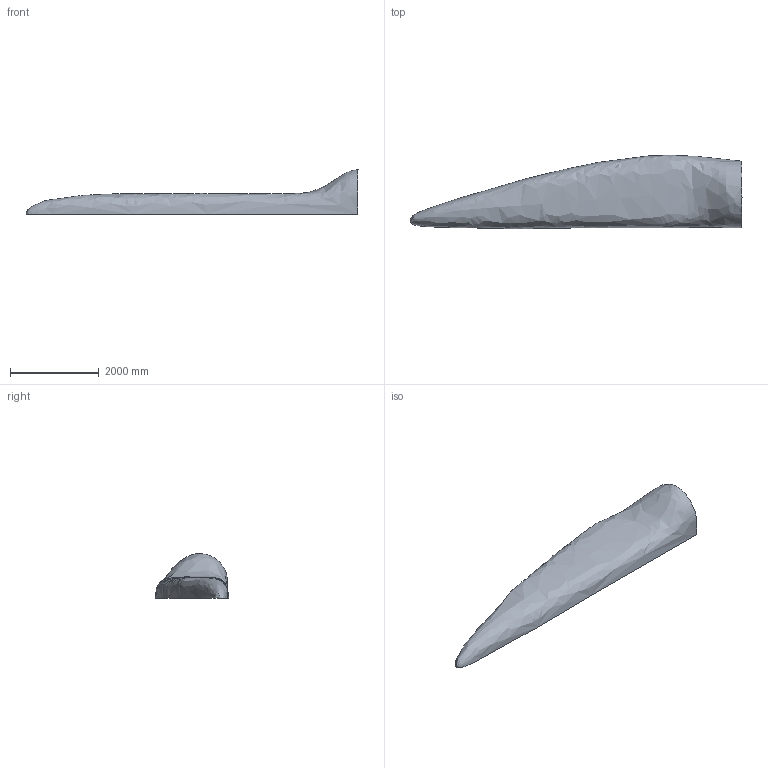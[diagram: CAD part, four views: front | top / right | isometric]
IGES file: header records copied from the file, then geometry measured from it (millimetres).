
Global section: file name: Filename.iges; native system: Open CASCADE 6.6; preprocessor: Open CASCADE IGES processor 6.6; author: admin; date: 20130524.191738; units: millimetre
Bounding box: 7479.84 x 1655.45 x 1010.36 mm (x, y, z)
Surface area: 14036616.8 mm2 (no closed solid volume)
Topology: 0 solids, 0 shells, 1 faces, 4 edges, 3 vertices
Faces by surface type: bspline 1
